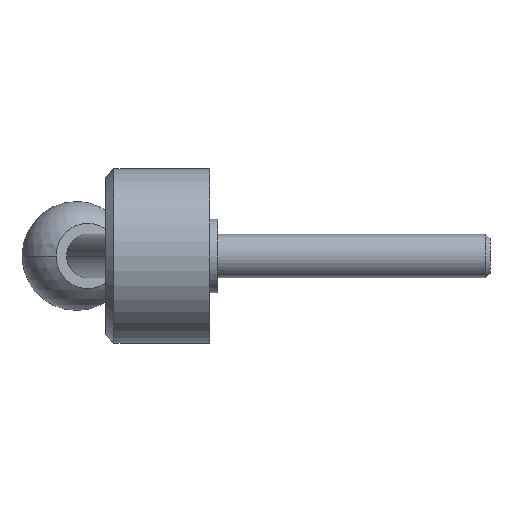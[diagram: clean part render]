
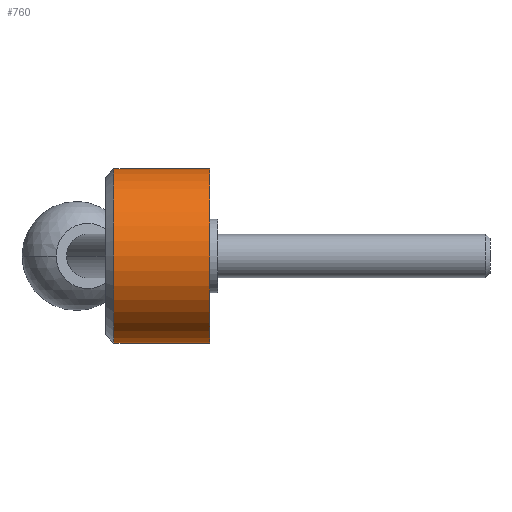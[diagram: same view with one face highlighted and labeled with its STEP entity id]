
A CAD part, left-side view. The second image highlights one B-rep face of the part: STEP entity #760.
In plain terms, the highlighted cylindrical face has radius 16 mm (diameter 32 mm), a partial arc.
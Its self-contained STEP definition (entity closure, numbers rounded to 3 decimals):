
#14 = CARTESIAN_POINT ( 'NONE',  ( 0., 0., -16. ) ) ;
#45 = VERTEX_POINT ( 'NONE', #14 ) ;
#53 = EDGE_CURVE ( 'NONE', #678, #45, #841, .T. ) ;
#98 = DIRECTION ( 'NONE',  ( 0., -1., 0. ) ) ;
#119 = AXIS2_PLACEMENT_3D ( 'NONE', #373, #790, #439 ) ;
#137 = VECTOR ( 'NONE', #694, 1000. ) ;
#162 = DIRECTION ( 'NONE',  ( 0., 0., -1. ) ) ;
#223 = DIRECTION ( 'NONE',  ( 0., -1., 0. ) ) ;
#233 = CYLINDRICAL_SURFACE ( 'NONE', #119, 16. ) ;
#247 = VERTEX_POINT ( 'NONE', #766 ) ;
#250 = VECTOR ( 'NONE', #223, 1000. ) ;
#280 = VERTEX_POINT ( 'NONE', #353 ) ;
#295 = FACE_OUTER_BOUND ( 'NONE', #858, .T. ) ;
#314 = CIRCLE ( 'NONE', #375, 16. ) ;
#343 = CARTESIAN_POINT ( 'NONE',  ( 0., 0., 16. ) ) ;
#353 = CARTESIAN_POINT ( 'NONE',  ( 0., 17.6, 16. ) ) ;
#357 = LINE ( 'NONE', #343, #137 ) ;
#360 = DIRECTION ( 'NONE',  ( 0., -1., 0. ) ) ;
#366 = EDGE_CURVE ( 'NONE', #280, #678, #816, .T. ) ;
#373 = CARTESIAN_POINT ( 'NONE',  ( 0., 0., 0. ) ) ;
#375 = AXIS2_PLACEMENT_3D ( 'NONE', #516, #360, #162 ) ;
#430 = AXIS2_PLACEMENT_3D ( 'NONE', #648, #98, #505 ) ;
#439 = DIRECTION ( 'NONE',  ( 0., 0., -1. ) ) ;
#474 = ORIENTED_EDGE ( 'NONE', *, *, #730, .F. ) ;
#502 = ORIENTED_EDGE ( 'NONE', *, *, #366, .T. ) ;
#505 = DIRECTION ( 'NONE',  ( 0., 0., 1. ) ) ;
#516 = CARTESIAN_POINT ( 'NONE',  ( 0., 0., 0. ) ) ;
#579 = EDGE_CURVE ( 'NONE', #280, #247, #357, .T. ) ;
#648 = CARTESIAN_POINT ( 'NONE',  ( 0., 17.6, 0. ) ) ;
#669 = ORIENTED_EDGE ( 'NONE', *, *, #579, .F. ) ;
#678 = VERTEX_POINT ( 'NONE', #783 ) ;
#694 = DIRECTION ( 'NONE',  ( 0., -1., 0. ) ) ;
#730 = EDGE_CURVE ( 'NONE', #247, #45, #314, .T. ) ;
#760 = ADVANCED_FACE ( 'NONE', ( #295 ), #233, .T. ) ;
#764 = ORIENTED_EDGE ( 'NONE', *, *, #53, .T. ) ;
#766 = CARTESIAN_POINT ( 'NONE',  ( 0., 0., 16. ) ) ;
#783 = CARTESIAN_POINT ( 'NONE',  ( 0., 17.6, -16. ) ) ;
#790 = DIRECTION ( 'NONE',  ( 0., -1., 0. ) ) ;
#816 = CIRCLE ( 'NONE', #430, 16. ) ;
#835 = CARTESIAN_POINT ( 'NONE',  ( 0., 0., -16. ) ) ;
#841 = LINE ( 'NONE', #835, #250 ) ;
#858 = EDGE_LOOP ( 'NONE', ( #669, #502, #764, #474 ) ) ;
